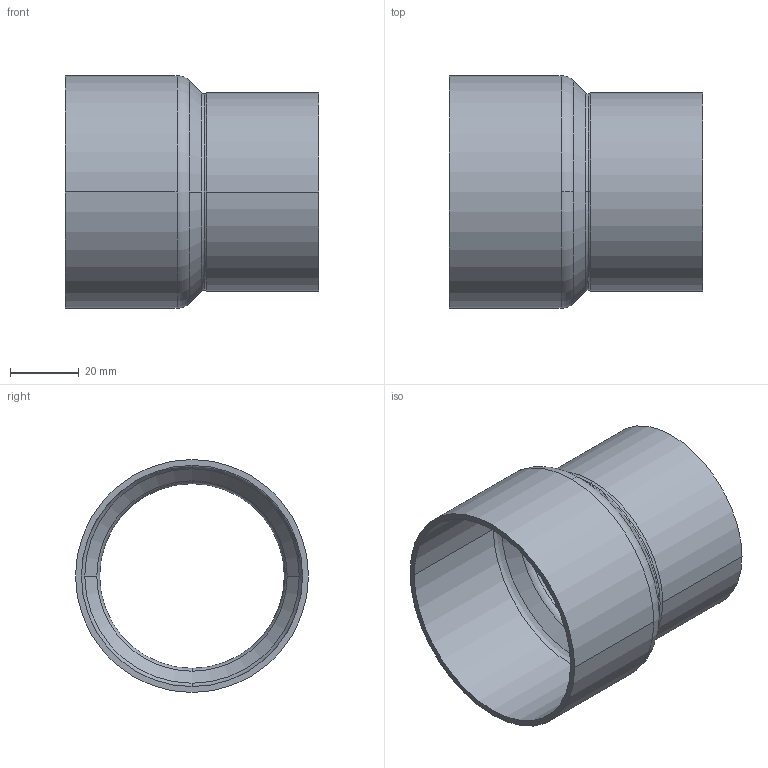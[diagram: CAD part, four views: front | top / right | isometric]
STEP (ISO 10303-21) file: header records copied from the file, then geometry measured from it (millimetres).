
FILE_DESCRIPTION((''),'2;1');
FILE_NAME('G:\Technics\CAD\Bauteile\Serie 15240\152406454.stp','2005-10-21T12:51:19',('boden'),(''),'Autodesk Inventor 8','Autodesk Inventor 8','');
FILE_SCHEMA(('AUTOMOTIVE_DESIGN { 1 0 10303 214 1 1 1 1 }'));
Length unit declared in the file: millimetre
Products named in the file (1): 152406454
Bounding box: 73.7 x 67.6 x 67.6 mm (x, y, z)
Volume: 24589.3 mm3; surface area: 29580.3 mm2
Topology: 1 solids, 1 shells, 26 faces, 68 edges, 44 vertices
Faces by surface type: cylinder 8, torus 6, bspline 6, cone 4, plane 2
Entity records: 1103 total; most frequent: CARTESIAN_POINT 403, DIRECTION 166, ORIENTED_EDGE 136, AXIS2_PLACEMENT_3D 77, EDGE_CURVE 68, CIRCLE 56, VERTEX_POINT 44, EDGE_LOOP 28
